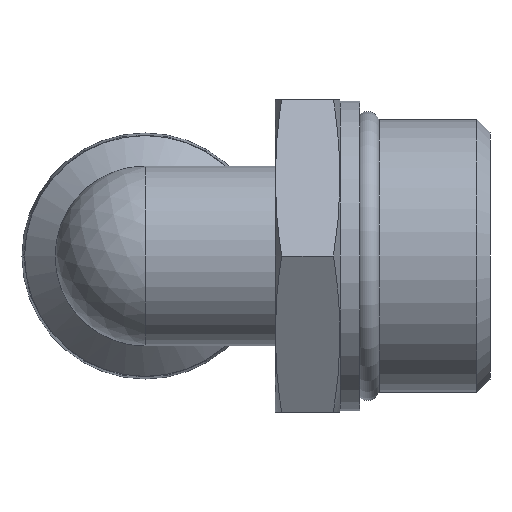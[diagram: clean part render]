
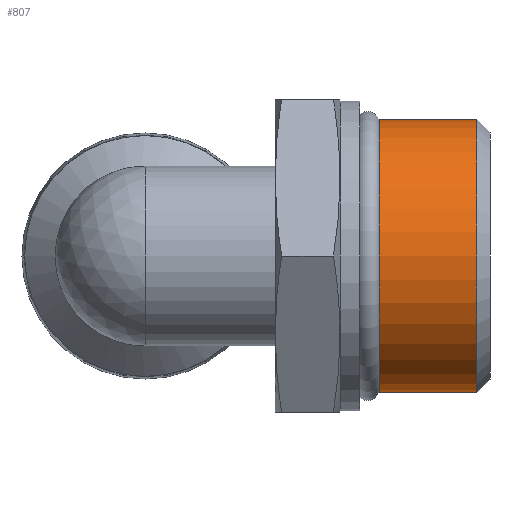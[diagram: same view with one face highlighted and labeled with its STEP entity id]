
A CAD part, left-side view. The second image highlights one B-rep face of the part: STEP entity #807.
In plain terms, the highlighted cylindrical face has radius 10.477 mm (diameter 20.955 mm), a full revolution.
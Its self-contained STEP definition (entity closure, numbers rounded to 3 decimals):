
#51=CYLINDRICAL_SURFACE('',#887,10.478);
#69=CIRCLE('',#885,10.478);
#70=CIRCLE('',#886,10.478);
#71=CIRCLE('',#888,10.478);
#72=CIRCLE('',#889,10.478);
#130=FACE_OUTER_BOUND('',#179,.T.);
#179=EDGE_LOOP('',(#570,#571,#572,#573,#574,#575));
#266=LINE('',#1306,#300);
#300=VECTOR('',#1033,10.478);
#340=VERTEX_POINT('',#1299);
#341=VERTEX_POINT('',#1301);
#342=VERTEX_POINT('',#1305);
#343=VERTEX_POINT('',#1307);
#432=EDGE_CURVE('',#340,#341,#69,.T.);
#433=EDGE_CURVE('',#341,#340,#70,.T.);
#434=EDGE_CURVE('',#341,#342,#266,.T.);
#435=EDGE_CURVE('',#342,#343,#71,.T.);
#436=EDGE_CURVE('',#343,#342,#72,.T.);
#570=ORIENTED_EDGE('',*,*,#432,.F.);
#571=ORIENTED_EDGE('',*,*,#433,.F.);
#572=ORIENTED_EDGE('',*,*,#434,.T.);
#573=ORIENTED_EDGE('',*,*,#435,.T.);
#574=ORIENTED_EDGE('',*,*,#436,.T.);
#575=ORIENTED_EDGE('',*,*,#434,.F.);
#807=ADVANCED_FACE('',(#130),#51,.T.);
#885=AXIS2_PLACEMENT_3D('',#1302,#1027,#1028);
#886=AXIS2_PLACEMENT_3D('',#1303,#1029,#1030);
#887=AXIS2_PLACEMENT_3D('',#1304,#1031,#1032);
#888=AXIS2_PLACEMENT_3D('',#1308,#1034,#1035);
#889=AXIS2_PLACEMENT_3D('',#1309,#1036,#1037);
#1027=DIRECTION('center_axis',(0.,-1.,0.));
#1028=DIRECTION('ref_axis',(-1.,0.,0.));
#1029=DIRECTION('center_axis',(0.,-1.,0.));
#1030=DIRECTION('ref_axis',(-1.,0.,0.));
#1031=DIRECTION('center_axis',(0.,-1.,0.));
#1032=DIRECTION('ref_axis',(1.,0.,0.));
#1033=DIRECTION('',(0.,1.,0.));
#1034=DIRECTION('center_axis',(0.,-1.,0.));
#1035=DIRECTION('ref_axis',(1.,0.,0.));
#1036=DIRECTION('center_axis',(0.,-1.,0.));
#1037=DIRECTION('ref_axis',(1.,0.,0.));
#1299=CARTESIAN_POINT('',(10.478,-25.5,0.));
#1301=CARTESIAN_POINT('',(-10.478,-25.5,0.));
#1302=CARTESIAN_POINT('Origin',(0.,-25.5,0.));
#1303=CARTESIAN_POINT('Origin',(0.,-25.5,0.));
#1304=CARTESIAN_POINT('Origin',(0.,-22.25,0.));
#1305=CARTESIAN_POINT('',(-10.478,-18.,0.));
#1306=CARTESIAN_POINT('',(-10.478,-22.25,0.));
#1307=CARTESIAN_POINT('',(10.478,-18.,0.));
#1308=CARTESIAN_POINT('Origin',(0.,-18.,0.));
#1309=CARTESIAN_POINT('Origin',(0.,-18.,0.));
